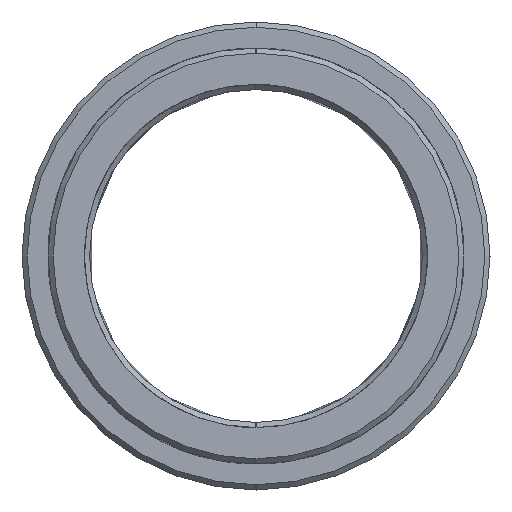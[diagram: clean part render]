
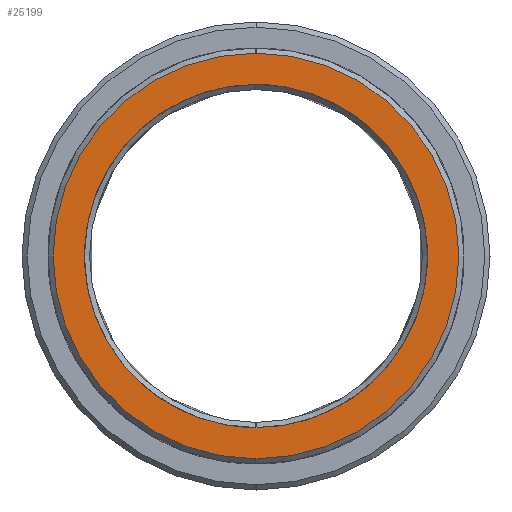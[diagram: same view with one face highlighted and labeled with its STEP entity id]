
A CAD part, left-side view. The second image highlights one B-rep face of the part: STEP entity #25199.
In plain terms, the highlighted planar face has unit normal (1, 0, 0).
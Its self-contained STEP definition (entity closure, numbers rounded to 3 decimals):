
#25116=CARTESIAN_POINT('Axis2P3D Location',(-20.,0.,0.)) ;
#25121=CARTESIAN_POINT('Axis2P3D Location',(-20.,0.,0.)) ;
#25125=CARTESIAN_POINT('Vertex',(-20.,0.,-19.5)) ;
#25127=CARTESIAN_POINT('Vertex',(-20.,0.,19.5)) ;
#25130=CARTESIAN_POINT('Axis2P3D Location',(-20.,0.,0.)) ;
#25140=CARTESIAN_POINT('Control Point',(-20.,0.,16.5)) ;
#25141=CARTESIAN_POINT('Control Point',(-20.,1.592,16.5)) ;
#25142=CARTESIAN_POINT('Control Point',(-20.,3.184,16.308)) ;
#25143=CARTESIAN_POINT('Control Point',(-20.,4.745,15.924)) ;
#25144=CARTESIAN_POINT('Control Point',(-20.,7.744,14.787)) ;
#25145=CARTESIAN_POINT('Control Point',(-20.,10.386,12.97)) ;
#25146=CARTESIAN_POINT('Control Point',(-20.,11.591,11.905)) ;
#25147=CARTESIAN_POINT('Control Point',(-20.,13.72,9.507)) ;
#25148=CARTESIAN_POINT('Control Point',(-20.,15.218,6.671)) ;
#25149=CARTESIAN_POINT('Control Point',(-20.,15.791,5.169)) ;
#25150=CARTESIAN_POINT('Control Point',(-20.,16.565,2.057)) ;
#25151=CARTESIAN_POINT('Control Point',(-20.,16.576,-1.15)) ;
#25152=CARTESIAN_POINT('Control Point',(-20.,16.387,-2.747)) ;
#25153=CARTESIAN_POINT('Control Point',(-20.,15.629,-5.863)) ;
#25154=CARTESIAN_POINT('Control Point',(-20.,14.151,-8.709)) ;
#25155=CARTESIAN_POINT('Control Point',(-20.,13.243,-10.036)) ;
#25156=CARTESIAN_POINT('Control Point',(-20.,11.125,-12.444)) ;
#25157=CARTESIAN_POINT('Control Point',(-20.,8.496,-14.28)) ;
#25158=CARTESIAN_POINT('Control Point',(-20.,7.076,-15.034)) ;
#25159=CARTESIAN_POINT('Control Point',(-20.,4.813,-15.904)) ;
#25160=CARTESIAN_POINT('Control Point',(-20.,2.442,-16.349)) ;
#25161=CARTESIAN_POINT('Control Point',(-20.,1.631,-16.45)) ;
#25162=CARTESIAN_POINT('Control Point',(-20.,0.815,-16.5)) ;
#25163=CARTESIAN_POINT('Control Point',(-20.,0.,-16.5)) ;
#25164=CARTESIAN_POINT('Vertex',(-20.,0.,16.5)) ;
#25166=CARTESIAN_POINT('Vertex',(-20.,0.,-16.5)) ;
#25170=CARTESIAN_POINT('Control Point',(-20.,0.,-16.5)) ;
#25171=CARTESIAN_POINT('Control Point',(-20.,-1.592,-16.5)) ;
#25172=CARTESIAN_POINT('Control Point',(-20.,-3.184,-16.308)) ;
#25173=CARTESIAN_POINT('Control Point',(-20.,-4.745,-15.924)) ;
#25174=CARTESIAN_POINT('Control Point',(-20.,-7.744,-14.787)) ;
#25175=CARTESIAN_POINT('Control Point',(-20.,-10.386,-12.97)) ;
#25176=CARTESIAN_POINT('Control Point',(-20.,-11.591,-11.905)) ;
#25177=CARTESIAN_POINT('Control Point',(-20.,-13.72,-9.507)) ;
#25178=CARTESIAN_POINT('Control Point',(-20.,-15.218,-6.671)) ;
#25179=CARTESIAN_POINT('Control Point',(-20.,-15.791,-5.169)) ;
#25180=CARTESIAN_POINT('Control Point',(-20.,-16.565,-2.057)) ;
#25181=CARTESIAN_POINT('Control Point',(-20.,-16.576,1.15)) ;
#25182=CARTESIAN_POINT('Control Point',(-20.,-16.387,2.747)) ;
#25183=CARTESIAN_POINT('Control Point',(-20.,-15.629,5.863)) ;
#25184=CARTESIAN_POINT('Control Point',(-20.,-14.151,8.709)) ;
#25185=CARTESIAN_POINT('Control Point',(-20.,-13.243,10.036)) ;
#25186=CARTESIAN_POINT('Control Point',(-20.,-11.125,12.444)) ;
#25187=CARTESIAN_POINT('Control Point',(-20.,-8.496,14.28)) ;
#25188=CARTESIAN_POINT('Control Point',(-20.,-7.076,15.034)) ;
#25189=CARTESIAN_POINT('Control Point',(-20.,-4.813,15.904)) ;
#25190=CARTESIAN_POINT('Control Point',(-20.,-2.442,16.349)) ;
#25191=CARTESIAN_POINT('Control Point',(-20.,-1.631,16.45)) ;
#25192=CARTESIAN_POINT('Control Point',(-20.,-0.815,16.5)) ;
#25193=CARTESIAN_POINT('Control Point',(-20.,0.,16.5)) ;
#25117=DIRECTION('Axis2P3D Direction',(1.,0.,0.)) ;
#25118=DIRECTION('Axis2P3D XDirection',(0.,1.,0.)) ;
#25122=DIRECTION('Axis2P3D Direction',(1.,0.,0.)) ;
#25131=DIRECTION('Axis2P3D Direction',(1.,0.,0.)) ;
#25119=AXIS2_PLACEMENT_3D('Plane Axis2P3D',#25116,#25117,#25118) ;
#25123=AXIS2_PLACEMENT_3D('Circle Axis2P3D',#25121,#25122,$) ;
#25132=AXIS2_PLACEMENT_3D('Circle Axis2P3D',#25130,#25131,$) ;
#25136=ORIENTED_EDGE('',*,*,#25129,.T.) ;
#25137=ORIENTED_EDGE('',*,*,#25134,.T.) ;
#25196=ORIENTED_EDGE('',*,*,#25168,.T.) ;
#25197=ORIENTED_EDGE('',*,*,#25194,.T.) ;
#25198=FACE_BOUND('',#25195,.T.) ;
#25199=ADVANCED_FACE('MANIFOLD_SOLID_BREP #11919',(#25138,#25198),#25120,.T.) ;
#25139=B_SPLINE_CURVE_WITH_KNOTS('',5,(#25140,#25141,#25142,#25143,#25144,#25145,#25146,#25147,#25148,#25149,#25150,#25151,#25152,#25153,#25154,#25155,#25156,#25157,#25158,#25159,#25160,#25161,#25162,#25163),.UNSPECIFIED.,.F.,.U.,(6,3,3,3,3,3,3,6),(0.,11.257,22.514,33.771,45.028,56.284,67.541,73.307),.UNSPECIFIED.) ;
#25169=B_SPLINE_CURVE_WITH_KNOTS('',5,(#25170,#25171,#25172,#25173,#25174,#25175,#25176,#25177,#25178,#25179,#25180,#25181,#25182,#25183,#25184,#25185,#25186,#25187,#25188,#25189,#25190,#25191,#25192,#25193),.UNSPECIFIED.,.F.,.U.,(6,3,3,3,3,3,3,6),(0.,11.257,22.514,33.771,45.028,56.284,67.541,73.307),.UNSPECIFIED.) ;
#25124=CIRCLE('generated circle',#25123,19.5) ;
#25133=CIRCLE('generated circle',#25132,19.5) ;
#25129=EDGE_CURVE('',#25126,#25128,#25124,.T.) ;
#25134=EDGE_CURVE('',#25128,#25126,#25133,.T.) ;
#25168=EDGE_CURVE('',#25165,#25167,#25139,.T.) ;
#25194=EDGE_CURVE('',#25167,#25165,#25169,.T.) ;
#25135=EDGE_LOOP('',(#25136,#25137)) ;
#25195=EDGE_LOOP('',(#25196,#25197)) ;
#25138=FACE_OUTER_BOUND('',#25135,.T.) ;
#25120=PLANE('Plane',#25119) ;
#25126=VERTEX_POINT('',#25125) ;
#25128=VERTEX_POINT('',#25127) ;
#25165=VERTEX_POINT('',#25164) ;
#25167=VERTEX_POINT('',#25166) ;
